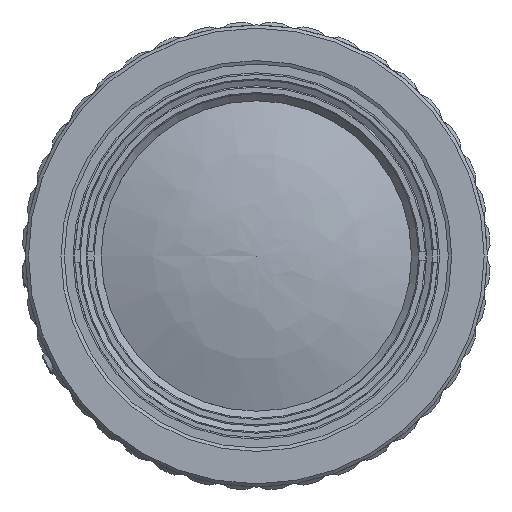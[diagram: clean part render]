
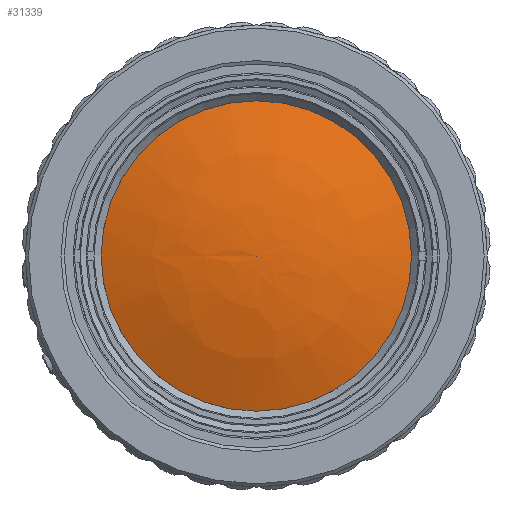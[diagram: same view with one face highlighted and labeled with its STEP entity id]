
A CAD part, left-side view. The second image highlights one B-rep face of the part: STEP entity #31339.
In plain terms, the highlighted face is a revolution surface.
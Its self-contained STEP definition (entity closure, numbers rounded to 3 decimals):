
#40=SURFACE_OF_REVOLUTION('',#54,#43);
#43=AXIS1_PLACEMENT('',#90792,#78473);
#54=B_SPLINE_CURVE_WITH_KNOTS('',3,(#90788,#90789,#90790,#90791),.UNSPECIFIED.,
.F.,.F.,(4,4),(0.,1.),.UNSPECIFIED.);
#25467=VERTEX_LOOP('',#58104);
#27051=FACE_BOUND('',#25467,.T.);
#31339=ADVANCED_FACE('',(#27051,#35927),#40,.F.);
#35927=FACE_OUTER_BOUND('',#38984,.T.);
#38984=EDGE_LOOP('',(#42316));
#42316=ORIENTED_EDGE('',*,*,#63159,.F.);
#58104=VERTEX_POINT('',#90785);
#58105=VERTEX_POINT('',#90787);
#63159=EDGE_CURVE('',#58105,#58105,#71060,.T.);
#71060=CIRCLE('',#73173,14.165);
#73173=AXIS2_PLACEMENT_3D('',#90786,#78471,#78472);
#78471=DIRECTION('',(1.,0.,0.));
#78472=DIRECTION('',(0.,0.,1.));
#78473=DIRECTION('',(-1.,0.,0.));
#90785=CARTESIAN_POINT('',(0.,0.,0.));
#90786=CARTESIAN_POINT('',(2.565,0.,0.));
#90787=CARTESIAN_POINT('',(2.565,0.,14.165));
#90788=CARTESIAN_POINT('',(0.,0.,0.));
#90789=CARTESIAN_POINT('',(0.,4.722,0.));
#90790=CARTESIAN_POINT('',(0.793,9.443,0.));
#90791=CARTESIAN_POINT('',(2.565,14.165,0.));
#90792=CARTESIAN_POINT('',(0.,0.,0.));
